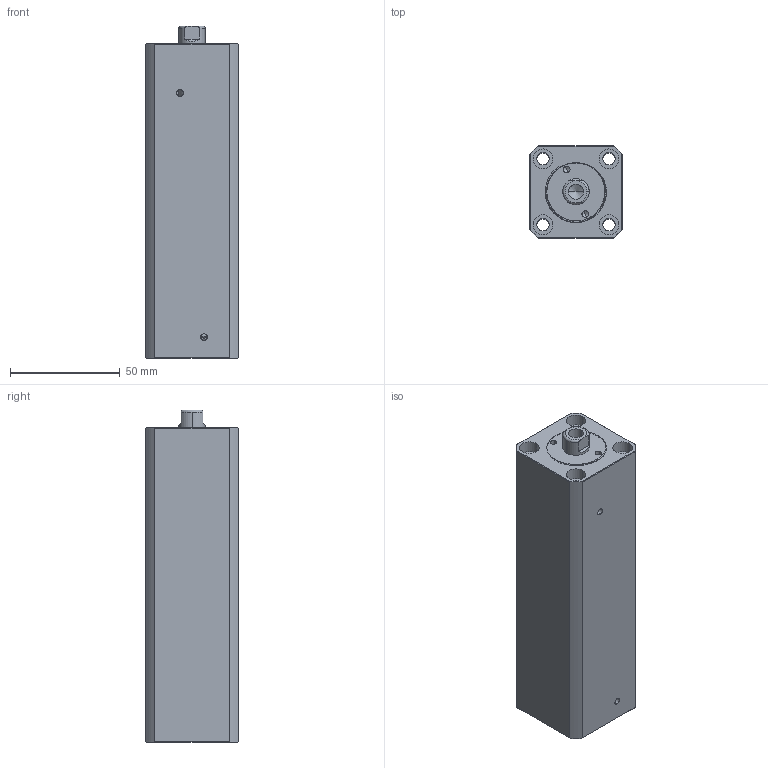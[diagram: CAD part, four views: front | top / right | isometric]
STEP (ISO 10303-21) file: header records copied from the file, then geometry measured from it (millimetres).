
FILE_DESCRIPTION (( 'STEP AP214' ), '1' );
FILE_NAME ('chtb-sdmb20x100n_asm.STEP', '2018-05-18T08:31:18', ( 'Windows' ), ( 'Microsoft' ), 'SwSTEP 2.0', 'SolidWorks 2015', '' );
FILE_SCHEMA (( 'AUTOMOTIVE_DESIGN' ));
Length unit declared in the file: millimetre
Products named in the file (4): QG_3; CHTB-SDMB20X100NHSG; CHTB-SDMB20X100NBT; chtb-sdmb20x100n_asm
Assembly tree (3 placements, depth 2):
  chtb-sdmb20x100n_asm
    CHTB-SDMB20X100NBT
    CHTB-SDMB20X100NHSG
    QG_3
Bounding box: 42 x 42 x 151 mm (x, y, z)
Volume: 210009 mm3; surface area: 58072.8 mm2
Topology: 3 solids, 3 shells, 201 faces, 535 edges, 354 vertices
Faces by surface type: cylinder 106, plane 43, torus 25, bspline 21, cone 6
Entity records: 11558 total; most frequent: CARTESIAN_POINT 6663, ORIENTED_EDGE 1058, DIRECTION 922, EDGE_CURVE 529, AXIS2_PLACEMENT_3D 388, VERTEX_POINT 354, EDGE_LOOP 239, CIRCLE 202
